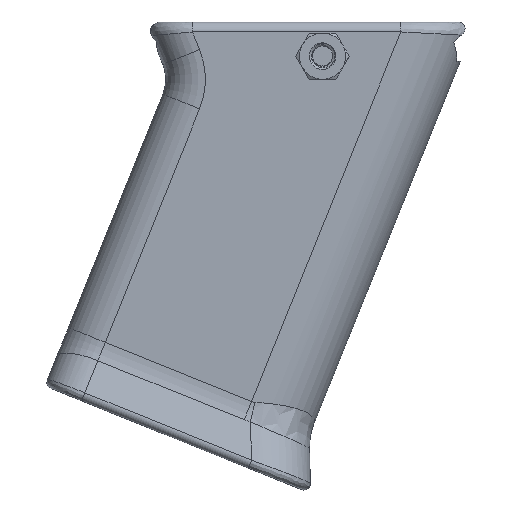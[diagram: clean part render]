
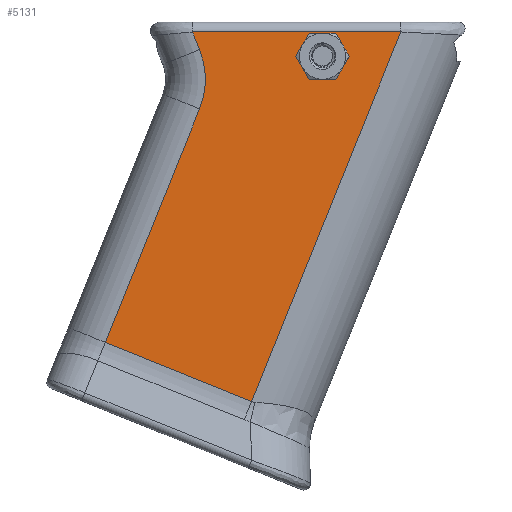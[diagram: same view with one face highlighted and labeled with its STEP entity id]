
A CAD part, left-side view. The second image highlights one B-rep face of the part: STEP entity #5131.
In plain terms, the highlighted planar face has unit normal (-1, 0, 0).
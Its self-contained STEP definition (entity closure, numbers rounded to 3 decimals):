
#126=FACE_BOUND('',#995,.T.);
#190=PLANE('',#5584);
#693=FACE_OUTER_BOUND('',#994,.T.);
#994=EDGE_LOOP('',(#4600,#4601,#4602,#4603,#4604,#4605));
#995=EDGE_LOOP('',(#4606,#4607,#4608,#4609,#4610,#4611));
#1113=CIRCLE('',#5535,12.);
#1482=LINE('',#15568,#1813);
#1525=LINE('',#16082,#1856);
#1530=LINE('',#16097,#1861);
#1539=LINE('',#16122,#1870);
#1541=LINE('',#16256,#1872);
#1543=LINE('',#16266,#1874);
#1544=LINE('',#16268,#1875);
#1545=LINE('',#16270,#1876);
#1546=LINE('',#16272,#1877);
#1547=LINE('',#16274,#1878);
#1548=LINE('',#16275,#1879);
#1813=VECTOR('',#6443,10.);
#1856=VECTOR('',#6638,10.);
#1861=VECTOR('',#6657,10.);
#1870=VECTOR('',#6686,10.);
#1872=VECTOR('',#6710,10.);
#1874=VECTOR('',#6720,10.);
#1875=VECTOR('',#6721,10.);
#1876=VECTOR('',#6722,10.);
#1877=VECTOR('',#6723,10.);
#1878=VECTOR('',#6724,10.);
#1879=VECTOR('',#6725,10.);
#2301=VERTEX_POINT('',#15552);
#2304=VERTEX_POINT('',#15566);
#2349=VERTEX_POINT('',#16045);
#2351=VERTEX_POINT('',#16049);
#2359=VERTEX_POINT('',#16080);
#2368=VERTEX_POINT('',#16120);
#2374=VERTEX_POINT('',#16264);
#2375=VERTEX_POINT('',#16265);
#2376=VERTEX_POINT('',#16267);
#2377=VERTEX_POINT('',#16269);
#2378=VERTEX_POINT('',#16271);
#2379=VERTEX_POINT('',#16273);
#2997=EDGE_CURVE('',#2304,#2301,#1482,.T.);
#3078=EDGE_CURVE('',#2351,#2349,#1113,.T.);
#3094=EDGE_CURVE('',#2359,#2351,#1525,.T.);
#3103=EDGE_CURVE('',#2349,#2304,#1530,.T.);
#3116=EDGE_CURVE('',#2368,#2359,#1539,.T.);
#3128=EDGE_CURVE('',#2301,#2368,#1541,.T.);
#3132=EDGE_CURVE('',#2374,#2375,#1543,.T.);
#3133=EDGE_CURVE('',#2375,#2376,#1544,.T.);
#3134=EDGE_CURVE('',#2376,#2377,#1545,.T.);
#3135=EDGE_CURVE('',#2377,#2378,#1546,.T.);
#3136=EDGE_CURVE('',#2378,#2379,#1547,.T.);
#3137=EDGE_CURVE('',#2379,#2374,#1548,.T.);
#4600=ORIENTED_EDGE('',*,*,#2997,.F.);
#4601=ORIENTED_EDGE('',*,*,#3103,.F.);
#4602=ORIENTED_EDGE('',*,*,#3078,.F.);
#4603=ORIENTED_EDGE('',*,*,#3094,.F.);
#4604=ORIENTED_EDGE('',*,*,#3116,.F.);
#4605=ORIENTED_EDGE('',*,*,#3128,.F.);
#4606=ORIENTED_EDGE('',*,*,#3132,.T.);
#4607=ORIENTED_EDGE('',*,*,#3133,.T.);
#4608=ORIENTED_EDGE('',*,*,#3134,.T.);
#4609=ORIENTED_EDGE('',*,*,#3135,.T.);
#4610=ORIENTED_EDGE('',*,*,#3136,.T.);
#4611=ORIENTED_EDGE('',*,*,#3137,.T.);
#5131=ADVANCED_FACE('',(#693,#126),#190,.T.);
#5535=AXIS2_PLACEMENT_3D('',#16051,#6597,#6598);
#5584=AXIS2_PLACEMENT_3D('',#16263,#6718,#6719);
#6443=DIRECTION('',(0.,-1.,0.));
#6597=DIRECTION('center_axis',(-1.,0.,0.));
#6598=DIRECTION('ref_axis',(0.,-1.,0.));
#6638=DIRECTION('',(0.,-0.375,0.927));
#6657=DIRECTION('',(0.,0.375,0.927));
#6686=DIRECTION('',(0.,0.927,0.375));
#6710=DIRECTION('',(0.,0.375,-0.927));
#6718=DIRECTION('center_axis',(-1.,0.,0.));
#6719=DIRECTION('ref_axis',(0.,0.,1.));
#6720=DIRECTION('',(0.,0.5,-0.866));
#6721=DIRECTION('',(0.,1.,0.));
#6722=DIRECTION('',(0.,0.5,0.866));
#6723=DIRECTION('',(0.,-0.5,0.866));
#6724=DIRECTION('',(0.,-1.,0.));
#6725=DIRECTION('',(0.,-0.5,-0.866));
#15552=CARTESIAN_POINT('',(-15.,-11.857,1.57));
#15566=CARTESIAN_POINT('',(-15.,19.675,1.57));
#15568=CARTESIAN_POINT('',(-15.,18.064,1.57));
#16045=CARTESIAN_POINT('',(-15.,18.597,-1.098));
#16049=CARTESIAN_POINT('',(-15.,18.597,-10.088));
#16051=CARTESIAN_POINT('Origin',(-15.,29.723,-5.593));
#16080=CARTESIAN_POINT('',(-15.,32.868,-45.41));
#16082=CARTESIAN_POINT('',(-15.,30.663,-39.952));
#16097=CARTESIAN_POINT('',(-15.,12.141,-17.076));
#16120=CARTESIAN_POINT('',(-15.,10.737,-54.351));
#16122=CARTESIAN_POINT('',(-15.,7.787,-55.543));
#16256=CARTESIAN_POINT('',(-15.,-5.609,-13.894));
#16263=CARTESIAN_POINT('Origin',(-15.,9.376,-31.93));
#16264=CARTESIAN_POINT('',(-15.,-4.041,-2.1));
#16265=CARTESIAN_POINT('',(-15.,-2.021,-5.6));
#16266=CARTESIAN_POINT('',(-15.,4.094,-16.191));
#16267=CARTESIAN_POINT('',(-15.,2.021,-5.6));
#16268=CARTESIAN_POINT('',(-15.,3.678,-5.6));
#16269=CARTESIAN_POINT('',(-15.,4.041,-2.1));
#16270=CARTESIAN_POINT('',(-15.,-2.761,-13.881));
#16271=CARTESIAN_POINT('',(-15.,2.021,1.4));
#16272=CARTESIAN_POINT('',(-15.,11.167,-14.441));
#16273=CARTESIAN_POINT('',(-15.,-2.021,1.4));
#16274=CARTESIAN_POINT('',(-15.,5.698,1.4));
#16275=CARTESIAN_POINT('',(-15.,-7.812,-8.631));
